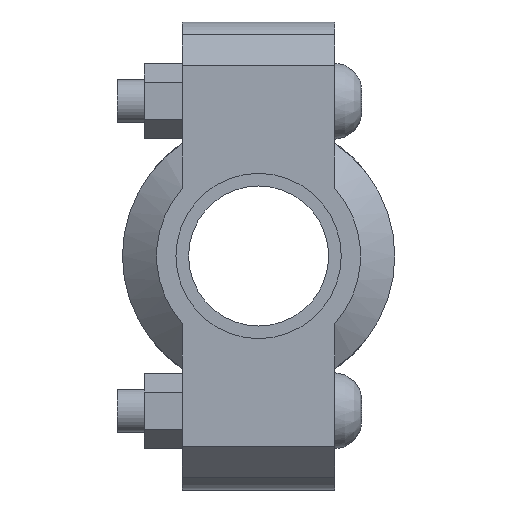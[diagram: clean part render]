
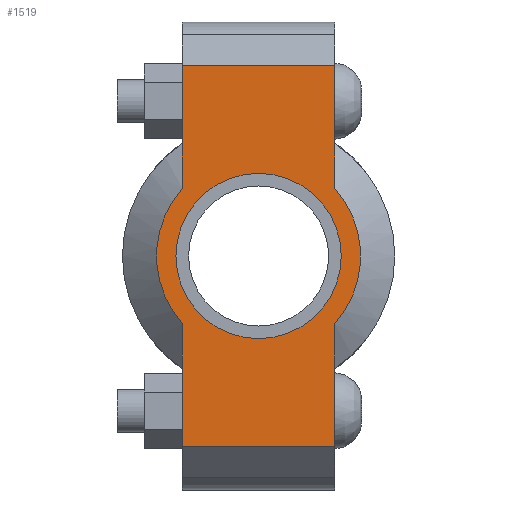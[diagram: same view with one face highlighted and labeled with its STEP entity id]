
A CAD part, left-side view. The second image highlights one B-rep face of the part: STEP entity #1519.
In plain terms, the highlighted planar face has unit normal (-1, 0, 0) as drawn and (0, 0, 1) by its records, which use the part's own axes.
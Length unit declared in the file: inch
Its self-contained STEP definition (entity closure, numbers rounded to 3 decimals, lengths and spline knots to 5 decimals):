
#130=LINE('',#2609,#225);
#145=LINE('',#2668,#240);
#153=LINE('',#2698,#248);
#155=LINE('',#2701,#250);
#156=LINE('',#2706,#251);
#157=LINE('',#2707,#252);
#225=VECTOR('',#2111,0.3937);
#240=VECTOR('',#2146,0.3937);
#248=VECTOR('',#2166,0.3937);
#250=VECTOR('',#2170,0.3937);
#251=VECTOR('',#2175,0.3937);
#252=VECTOR('',#2176,0.3937);
#312=FACE_BOUND('',#471,.T.);
#372=FACE_OUTER_BOUND('',#470,.T.);
#470=EDGE_LOOP('',(#1214,#1215,#1216,#1217,#1218,#1219,#1220,#1221));
#471=EDGE_LOOP('',(#1222));
#576=CIRCLE('',#1782,1.172);
#577=CIRCLE('',#1783,1.172);
#578=CIRCLE('',#1784,0.95);
#685=VERTEX_POINT('',#2606);
#686=VERTEX_POINT('',#2608);
#707=VERTEX_POINT('',#2663);
#708=VERTEX_POINT('',#2667);
#717=VERTEX_POINT('',#2693);
#718=VERTEX_POINT('',#2697);
#719=VERTEX_POINT('',#2703);
#720=VERTEX_POINT('',#2705);
#721=VERTEX_POINT('',#2709);
#855=EDGE_CURVE('',#686,#685,#130,.T.);
#880=EDGE_CURVE('',#708,#707,#145,.T.);
#893=EDGE_CURVE('',#718,#717,#153,.T.);
#895=EDGE_CURVE('',#718,#685,#155,.T.);
#896=EDGE_CURVE('',#717,#719,#576,.T.);
#897=EDGE_CURVE('',#719,#720,#156,.T.);
#898=EDGE_CURVE('',#708,#720,#157,.T.);
#899=EDGE_CURVE('',#707,#686,#577,.T.);
#900=EDGE_CURVE('',#721,#721,#578,.T.);
#1214=ORIENTED_EDGE('',*,*,#895,.F.);
#1215=ORIENTED_EDGE('',*,*,#893,.T.);
#1216=ORIENTED_EDGE('',*,*,#896,.T.);
#1217=ORIENTED_EDGE('',*,*,#897,.T.);
#1218=ORIENTED_EDGE('',*,*,#898,.F.);
#1219=ORIENTED_EDGE('',*,*,#880,.T.);
#1220=ORIENTED_EDGE('',*,*,#899,.T.);
#1221=ORIENTED_EDGE('',*,*,#855,.T.);
#1222=ORIENTED_EDGE('',*,*,#900,.T.);
#1371=PLANE('',#1781);
#1519=ADVANCED_FACE('',(#372,#312),#1371,.T.);
#1781=AXIS2_PLACEMENT_3D('',#2702,#2171,#2172);
#1782=AXIS2_PLACEMENT_3D('',#2704,#2173,#2174);
#1783=AXIS2_PLACEMENT_3D('',#2708,#2177,#2178);
#1784=AXIS2_PLACEMENT_3D('',#2710,#2179,#2180);
#2111=DIRECTION('',(1.,0.,0.));
#2146=DIRECTION('',(1.,0.,0.));
#2166=DIRECTION('',(-1.,0.,0.));
#2170=DIRECTION('',(0.,-1.,0.));
#2171=DIRECTION('center_axis',(0.,0.,1.));
#2172=DIRECTION('ref_axis',(-1.,0.,0.));
#2173=DIRECTION('center_axis',(0.,0.,1.));
#2174=DIRECTION('ref_axis',(1.,0.,0.));
#2175=DIRECTION('',(-1.,0.,0.));
#2176=DIRECTION('',(0.,1.,0.));
#2177=DIRECTION('center_axis',(0.,0.,1.));
#2178=DIRECTION('ref_axis',(1.,0.,0.));
#2179=DIRECTION('center_axis',(0.,0.,-1.));
#2180=DIRECTION('ref_axis',(1.,0.,0.));
#2606=CARTESIAN_POINT('',(2.19,-0.875,0.94));
#2608=CARTESIAN_POINT('',(0.77972,-0.875,0.94));
#2609=CARTESIAN_POINT('',(-2.69,-0.875,0.94));
#2663=CARTESIAN_POINT('',(-0.77972,-0.875,0.94));
#2667=CARTESIAN_POINT('',(-2.19,-0.875,0.94));
#2668=CARTESIAN_POINT('',(-2.69,-0.875,0.94));
#2693=CARTESIAN_POINT('',(0.77972,0.875,0.94));
#2697=CARTESIAN_POINT('',(2.19,0.875,0.94));
#2698=CARTESIAN_POINT('',(2.69,0.875,0.94));
#2701=CARTESIAN_POINT('',(2.19,-0.4375,0.94));
#2702=CARTESIAN_POINT('Origin',(0.,0.,
0.94));
#2703=CARTESIAN_POINT('',(-0.77972,0.875,0.94));
#2704=CARTESIAN_POINT('Origin',(0.,0.,0.94));
#2705=CARTESIAN_POINT('',(-2.19,0.875,0.94));
#2706=CARTESIAN_POINT('',(2.69,0.875,0.94));
#2707=CARTESIAN_POINT('',(-2.19,0.4375,0.94));
#2708=CARTESIAN_POINT('Origin',(0.,0.,0.94));
#2709=CARTESIAN_POINT('',(-0.95,0.,0.94));
#2710=CARTESIAN_POINT('Origin',(0.,0.,0.94));
